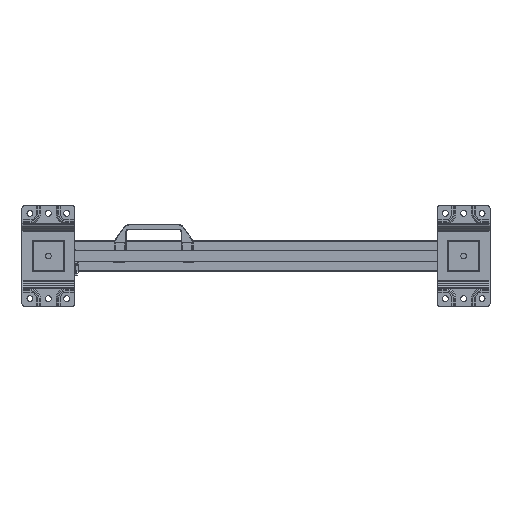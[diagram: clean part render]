
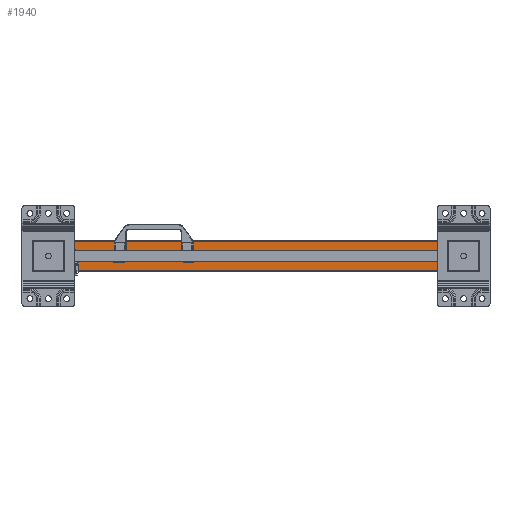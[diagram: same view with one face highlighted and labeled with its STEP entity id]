
A CAD part, front view. The second image highlights one B-rep face of the part: STEP entity #1940.
In plain terms, the highlighted planar face has unit normal (0, -1, 0).
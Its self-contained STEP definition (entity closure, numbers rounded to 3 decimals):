
#1940=ADVANCED_FACE('',(#5741),#5742,.T.);
#5741=FACE_OUTER_BOUND('',#11714,.T.);
#5742=PLANE('',#11715);
#11714=EDGE_LOOP('',(#19231,#19232,#19233,#19234));
#11715=AXIS2_PLACEMENT_3D('',#19235,#19236,#19237);
#19231=ORIENTED_EDGE('',*,*,#36022,.T.);
#19232=ORIENTED_EDGE('',*,*,#36023,.F.);
#19233=ORIENTED_EDGE('',*,*,#36024,.T.);
#19234=ORIENTED_EDGE('',*,*,#36012,.T.);
#19235=CARTESIAN_POINT('',(0.0,2039.0,30.));
#19236=DIRECTION('',(0.,-1.0,0.));
#19237=DIRECTION('',(-1.0,0.,0.0));
#36012=EDGE_CURVE('',#42922,#42920,#42923,.T.);
#36022=EDGE_CURVE('',#42920,#42935,#42936,.T.);
#36023=EDGE_CURVE('',#42937,#42935,#42938,.T.);
#36024=EDGE_CURVE('',#42937,#42922,#42939,.T.);
#42920=VERTEX_POINT('',#53050);
#42922=VERTEX_POINT('',#53053);
#42923=LINE('',#53054,#53055);
#42935=VERTEX_POINT('',#53073);
#42936=LINE('',#53074,#53075);
#42937=VERTEX_POINT('',#53076);
#42938=LINE('',#53077,#53078);
#42939=LINE('',#53079,#53080);
#53050=CARTESIAN_POINT('',(730.0,2039.0,-30.));
#53053=CARTESIAN_POINT('',(0.,2039.0,-30.));
#53054=CARTESIAN_POINT('',(0.,2039.0,-30.));
#53055=VECTOR('',#68364,10.0);
#53073=CARTESIAN_POINT('',(730.0,2039.0,30.));
#53074=CARTESIAN_POINT('',(730.0,2039.0,15.));
#53075=VECTOR('',#68371,1.0);
#53076=CARTESIAN_POINT('',(0.0,2039.0,30.));
#53077=CARTESIAN_POINT('',(0.0,2039.0,30.));
#53078=VECTOR('',#68372,10.0);
#53079=CARTESIAN_POINT('',(0.0,2039.0,30.));
#53080=VECTOR('',#68373,10.0);
#68364=DIRECTION('',(1.0,0.,0.));
#68371=DIRECTION('',(-0.0,0.,1.0));
#68372=DIRECTION('',(1.0,0.,0.));
#68373=DIRECTION('',(0.,0.,-1.0));
